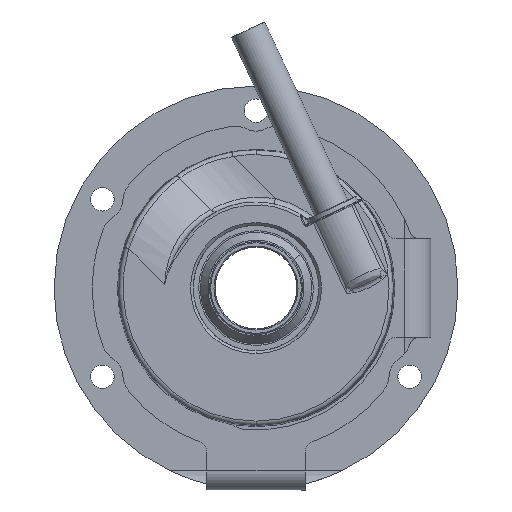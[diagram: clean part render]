
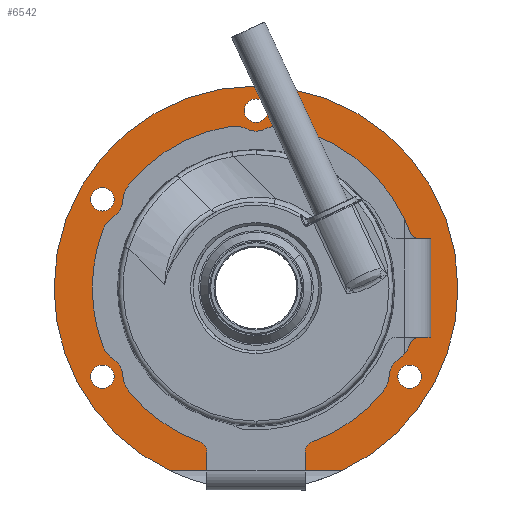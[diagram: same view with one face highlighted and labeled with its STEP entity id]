
A CAD part, left-side view. The second image highlights one B-rep face of the part: STEP entity #6542.
In plain terms, the highlighted planar face has unit normal (-1, 0, 0).
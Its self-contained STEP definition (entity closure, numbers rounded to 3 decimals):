
#381 = DIRECTION ( 'NONE',  ( 1., 0., 0. ) ) ;
#382 = CIRCLE ( 'NONE', #386, 2.15 ) ;
#384 = DIRECTION ( 'NONE',  ( 0., -1., 0. ) ) ;
#385 = CARTESIAN_POINT ( 'NONE',  ( 28.7, 0., 32.5 ) ) ;
#386 = AXIS2_PLACEMENT_3D ( 'NONE', #385, #381, #384 ) ;
#441 = DIRECTION ( 'NONE',  ( 0., -1., 0. ) ) ;
#442 = DIRECTION ( 'NONE',  ( 1., 0., 0. ) ) ;
#443 = CARTESIAN_POINT ( 'NONE',  ( 28.7, 0., 0. ) ) ;
#444 = AXIS2_PLACEMENT_3D ( 'NONE', #443, #442, #441 ) ;
#445 = CIRCLE ( 'NONE', #444, 27.5 ) ;
#446 = DIRECTION ( 'NONE',  ( 0., -1., 0. ) ) ;
#447 = VECTOR ( 'NONE', #446, 1000. ) ;
#448 = CARTESIAN_POINT ( 'NONE',  ( 28.7, -9., -33.5 ) ) ;
#449 = LINE ( 'NONE', #448, #447 ) ;
#544 = DIRECTION ( 'NONE',  ( 0., -1., 0. ) ) ;
#545 = DIRECTION ( 'NONE',  ( 1., 0., 0. ) ) ;
#546 = CARTESIAN_POINT ( 'NONE',  ( 28.7, 28.146, -16.25 ) ) ;
#547 = AXIS2_PLACEMENT_3D ( 'NONE', #546, #545, #544 ) ;
#555 = CIRCLE ( 'NONE', #547, 2.15 ) ;
#674 = AXIS2_PLACEMENT_3D ( 'NONE', #812, #811, #810 ) ;
#675 = CIRCLE ( 'NONE', #674, 2.15 ) ;
#766 = FACE_OUTER_BOUND ( 'NONE', #6399, .T. ) ;
#767 = FACE_BOUND ( 'NONE', #6485, .T. ) ;
#768 = FACE_BOUND ( 'NONE', #6439, .T. ) ;
#769 = FACE_BOUND ( 'NONE', #6548, .T. ) ;
#770 = FACE_BOUND ( 'NONE', #6545, .T. ) ;
#771 = FACE_BOUND ( 'NONE', #6491, .T. ) ;
#797 = DIRECTION ( 'NONE',  ( 0., -1., 0. ) ) ;
#798 = DIRECTION ( 'NONE',  ( 1., 0., 0. ) ) ;
#799 = AXIS2_PLACEMENT_3D ( 'NONE', #806, #798, #797 ) ;
#800 = CIRCLE ( 'NONE', #799, 2.15 ) ;
#801 = DIRECTION ( 'NONE',  ( 0., -1., 0. ) ) ;
#802 = DIRECTION ( 'NONE',  ( 1., 0., 0. ) ) ;
#803 = CARTESIAN_POINT ( 'NONE',  ( 28.7, 0., 0. ) ) ;
#804 = AXIS2_PLACEMENT_3D ( 'NONE', #803, #802, #801 ) ;
#805 = PLANE ( 'NONE',  #804 ) ;
#806 = CARTESIAN_POINT ( 'NONE',  ( 28.7, -28.146, -16.25 ) ) ;
#810 = DIRECTION ( 'NONE',  ( 0., -1., 0. ) ) ;
#811 = DIRECTION ( 'NONE',  ( 1., 0., 0. ) ) ;
#812 = CARTESIAN_POINT ( 'NONE',  ( 28.7, 28.146, 16.25 ) ) ;
#874 = CARTESIAN_POINT ( 'NONE',  ( 28.7, 15.708, -33.5 ) ) ;
#6395 = ORIENTED_EDGE ( 'NONE', *, *, #6400, .F. ) ;
#6397 = ORIENTED_EDGE ( 'NONE', *, *, #6428, .T. ) ;
#6399 = EDGE_LOOP ( 'NONE', ( #6395, #6397, #6418, #6419 ) ) ;
#6400 = EDGE_CURVE ( 'NONE', #6609, #14546, #15941, .T. ) ;
#6404 = EDGE_CURVE ( 'NONE', #14621, #14772, #382, .T. ) ;
#6418 = ORIENTED_EDGE ( 'NONE', *, *, #14585, .F. ) ;
#6419 = ORIENTED_EDGE ( 'NONE', *, *, #14645, .F. ) ;
#6428 = EDGE_CURVE ( 'NONE', #6609, #14586, #449, .T. ) ;
#6430 = EDGE_CURVE ( 'NONE', #14802, #14754, #445, .T. ) ;
#6437 = ORIENTED_EDGE ( 'NONE', *, *, #14799, .T. ) ;
#6438 = ORIENTED_EDGE ( 'NONE', *, *, #6430, .T. ) ;
#6439 = EDGE_LOOP ( 'NONE', ( #6440, #6441 ) ) ;
#6440 = ORIENTED_EDGE ( 'NONE', *, *, #14800, .T. ) ;
#6441 = ORIENTED_EDGE ( 'NONE', *, *, #6552, .T. ) ;
#6482 = EDGE_CURVE ( 'NONE', #14910, #14900, #555, .T. ) ;
#6485 = EDGE_LOOP ( 'NONE', ( #6486, #6487 ) ) ;
#6486 = ORIENTED_EDGE ( 'NONE', *, *, #14625, .T. ) ;
#6487 = ORIENTED_EDGE ( 'NONE', *, *, #6404, .T. ) ;
#6490 = EDGE_CURVE ( 'NONE', #14629, #14633, #675, .T. ) ;
#6491 = EDGE_LOOP ( 'NONE', ( #6543, #6544 ) ) ;
#6542 = ADVANCED_FACE ( 'NONE', ( #771, #770, #769, #768, #767, #766 ), #805, .F. ) ;
#6543 = ORIENTED_EDGE ( 'NONE', *, *, #14775, .T. ) ;
#6544 = ORIENTED_EDGE ( 'NONE', *, *, #6490, .T. ) ;
#6545 = EDGE_LOOP ( 'NONE', ( #6546, #6547 ) ) ;
#6546 = ORIENTED_EDGE ( 'NONE', *, *, #14902, .T. ) ;
#6547 = ORIENTED_EDGE ( 'NONE', *, *, #6482, .T. ) ;
#6548 = EDGE_LOOP ( 'NONE', ( #6437, #6438 ) ) ;
#6552 = EDGE_CURVE ( 'NONE', #14786, #14782, #800, .T. ) ;
#6609 = VERTEX_POINT ( 'NONE', #874 ) ;
#9215 = CARTESIAN_POINT ( 'NONE',  ( 28.7, 28.146, -16.25 ) ) ;
#9216 = CARTESIAN_POINT ( 'NONE',  ( 28.7, 30.296, -16.25 ) ) ;
#9270 = CARTESIAN_POINT ( 'NONE',  ( 28.7, 25.996, -16.25 ) ) ;
#9278 = DIRECTION ( 'NONE',  ( 0., -1., 0. ) ) ;
#9279 = DIRECTION ( 'NONE',  ( 1., 0., 0. ) ) ;
#9280 = AXIS2_PLACEMENT_3D ( 'NONE', #9215, #9279, #9278 ) ;
#9281 = CIRCLE ( 'NONE', #9280, 2.15 ) ;
#13464 = CARTESIAN_POINT ( 'NONE',  ( 28.7, 37., 0. ) ) ;
#13595 = CARTESIAN_POINT ( 'NONE',  ( 28.7, -15.708, -33.5 ) ) ;
#13596 = DIRECTION ( 'NONE',  ( 0., -1., 0. ) ) ;
#13597 = DIRECTION ( 'NONE',  ( 1., 0., 0. ) ) ;
#13598 = CARTESIAN_POINT ( 'NONE',  ( 28.7, 0., 0. ) ) ;
#13599 = AXIS2_PLACEMENT_3D ( 'NONE', #13598, #13597, #13596 ) ;
#13600 = CIRCLE ( 'NONE', #13599, 37. ) ;
#13610 = CARTESIAN_POINT ( 'NONE',  ( 28.7, -37., 0. ) ) ;
#13697 = AXIS2_PLACEMENT_3D ( 'NONE', #13753, #13752, #13751 ) ;
#13698 = CIRCLE ( 'NONE', #13697, 2.15 ) ;
#13722 = CARTESIAN_POINT ( 'NONE',  ( 28.7, -2.15, 32.5 ) ) ;
#13739 = CARTESIAN_POINT ( 'NONE',  ( 28.7, 30.296, 16.25 ) ) ;
#13744 = CARTESIAN_POINT ( 'NONE',  ( 28.7, 25.996, 16.25 ) ) ;
#13751 = DIRECTION ( 'NONE',  ( 0., -1., 0. ) ) ;
#13752 = DIRECTION ( 'NONE',  ( 1., 0., 0. ) ) ;
#13753 = CARTESIAN_POINT ( 'NONE',  ( 28.7, 0., 32.5 ) ) ;
#13762 = DIRECTION ( 'NONE',  ( 0., -1., 0. ) ) ;
#13763 = DIRECTION ( 'NONE',  ( 1., 0., 0. ) ) ;
#13764 = CARTESIAN_POINT ( 'NONE',  ( 28.7, 0., 0. ) ) ;
#13765 = AXIS2_PLACEMENT_3D ( 'NONE', #13764, #13763, #13762 ) ;
#13766 = CIRCLE ( 'NONE', #13765, 37. ) ;
#14021 = CARTESIAN_POINT ( 'NONE',  ( 28.7, 27.5, 0. ) ) ;
#14089 = DIRECTION ( 'NONE',  ( 0., -1., 0. ) ) ;
#14090 = DIRECTION ( 'NONE',  ( 1., 0., 0. ) ) ;
#14091 = CARTESIAN_POINT ( 'NONE',  ( 28.7, 28.146, 16.25 ) ) ;
#14092 = AXIS2_PLACEMENT_3D ( 'NONE', #14091, #14090, #14089 ) ;
#14093 = CIRCLE ( 'NONE', #14092, 2.15 ) ;
#14102 = CARTESIAN_POINT ( 'NONE',  ( 28.7, 2.15, 32.5 ) ) ;
#14160 = CARTESIAN_POINT ( 'NONE',  ( 28.7, -30.296, -16.25 ) ) ;
#14166 = CARTESIAN_POINT ( 'NONE',  ( 28.7, -25.996, -16.25 ) ) ;
#14188 = CARTESIAN_POINT ( 'NONE',  ( 28.7, -27.5, 0. ) ) ;
#14189 = DIRECTION ( 'NONE',  ( 0., -1., 0. ) ) ;
#14190 = DIRECTION ( 'NONE',  ( 1., 0., 0. ) ) ;
#14191 = CARTESIAN_POINT ( 'NONE',  ( 28.7, -28.146, -16.25 ) ) ;
#14192 = AXIS2_PLACEMENT_3D ( 'NONE', #14191, #14190, #14189 ) ;
#14193 = CIRCLE ( 'NONE', #14192, 2.15 ) ;
#14194 = DIRECTION ( 'NONE',  ( 0., -1., 0. ) ) ;
#14195 = DIRECTION ( 'NONE',  ( 1., 0., 0. ) ) ;
#14196 = CARTESIAN_POINT ( 'NONE',  ( 28.7, 0., 0. ) ) ;
#14197 = AXIS2_PLACEMENT_3D ( 'NONE', #14196, #14195, #14194 ) ;
#14198 = CIRCLE ( 'NONE', #14197, 27.5 ) ;
#14546 = VERTEX_POINT ( 'NONE', #13464 ) ;
#14585 = EDGE_CURVE ( 'NONE', #14599, #14586, #13600, .T. ) ;
#14586 = VERTEX_POINT ( 'NONE', #13595 ) ;
#14599 = VERTEX_POINT ( 'NONE', #13610 ) ;
#14621 = VERTEX_POINT ( 'NONE', #13722 ) ;
#14625 = EDGE_CURVE ( 'NONE', #14772, #14621, #13698, .T. ) ;
#14629 = VERTEX_POINT ( 'NONE', #13744 ) ;
#14633 = VERTEX_POINT ( 'NONE', #13739 ) ;
#14645 = EDGE_CURVE ( 'NONE', #14546, #14599, #13766, .T. ) ;
#14754 = VERTEX_POINT ( 'NONE', #14021 ) ;
#14772 = VERTEX_POINT ( 'NONE', #14102 ) ;
#14775 = EDGE_CURVE ( 'NONE', #14633, #14629, #14093, .T. ) ;
#14782 = VERTEX_POINT ( 'NONE', #14166 ) ;
#14786 = VERTEX_POINT ( 'NONE', #14160 ) ;
#14799 = EDGE_CURVE ( 'NONE', #14754, #14802, #14198, .T. ) ;
#14800 = EDGE_CURVE ( 'NONE', #14782, #14786, #14193, .T. ) ;
#14802 = VERTEX_POINT ( 'NONE', #14188 ) ;
#14900 = VERTEX_POINT ( 'NONE', #9216 ) ;
#14902 = EDGE_CURVE ( 'NONE', #14900, #14910, #9281, .T. ) ;
#14910 = VERTEX_POINT ( 'NONE', #9270 ) ;
#15938 = DIRECTION ( 'NONE',  ( 1., 0., 0. ) ) ;
#15939 = CARTESIAN_POINT ( 'NONE',  ( 28.7, 0., 0. ) ) ;
#15940 = AXIS2_PLACEMENT_3D ( 'NONE', #15939, #15938, #15947 ) ;
#15941 = CIRCLE ( 'NONE', #15940, 37. ) ;
#15947 = DIRECTION ( 'NONE',  ( 0., -1., 0. ) ) ;
